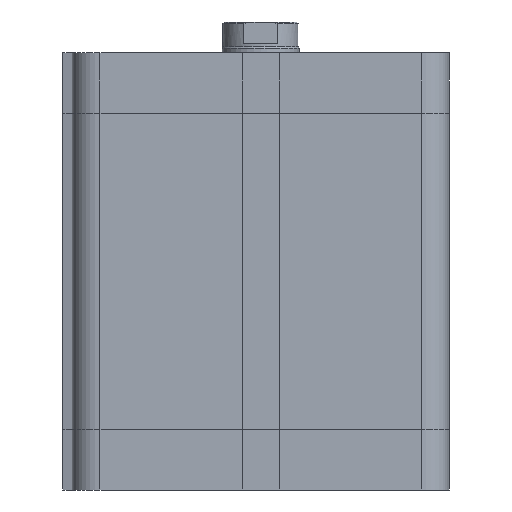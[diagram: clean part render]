
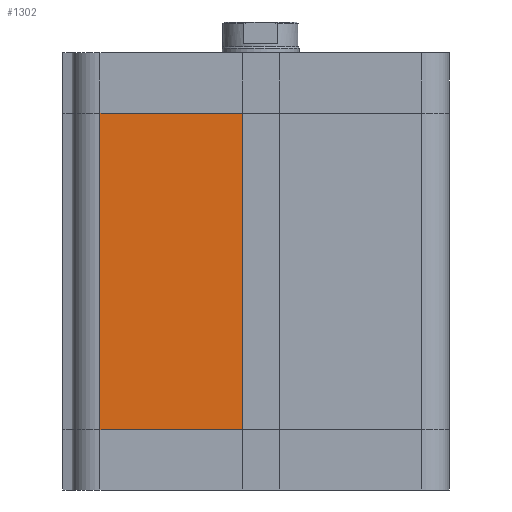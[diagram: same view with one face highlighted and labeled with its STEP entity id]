
A CAD part, left-side view. The second image highlights one B-rep face of the part: STEP entity #1302.
In plain terms, the highlighted planar face has unit normal (-1, 0, 0).
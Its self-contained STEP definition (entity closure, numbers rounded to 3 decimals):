
#1213=CARTESIAN_POINT('',(-61.0,52.,19.5));
#1214=VERTEX_POINT('',#1213);
#1222=CARTESIAN_POINT('',(-61.0,52.,122.));
#1223=VERTEX_POINT('',#1222);
#1224=CARTESIAN_POINT('',(-61.0,52.,19.5));
#1225=DIRECTION('',(0.0,0.0,1.0));
#1226=VECTOR('',#1225,102.5);
#1227=LINE('',#1224,#1226);
#1228=EDGE_CURVE('',#1214,#1223,#1227,.T.);
#1272=CARTESIAN_POINT('',(-61.,6.,0.0));
#1273=DIRECTION('',(-1.0,0.0,0.0));
#1274=DIRECTION('',(0.0,0.0,1.0));
#1275=AXIS2_PLACEMENT_3D('',#1272,#1273,#1274);
#1276=PLANE('',#1275);
#1277=CARTESIAN_POINT('',(-61.,6.,19.5));
#1278=VERTEX_POINT('',#1277);
#1279=CARTESIAN_POINT('',(-61.0,52.,19.5));
#1280=DIRECTION('',(0.0,-1.0,0.0));
#1281=VECTOR('',#1280,46.);
#1282=LINE('',#1279,#1281);
#1283=EDGE_CURVE('',#1214,#1278,#1282,.T.);
#1284=ORIENTED_EDGE('',*,*,#1283,.T.);
#1285=CARTESIAN_POINT('',(-61.,6.,122.));
#1286=VERTEX_POINT('',#1285);
#1287=CARTESIAN_POINT('',(-61.,6.,19.5));
#1288=DIRECTION('',(0.0,0.0,1.0));
#1289=VECTOR('',#1288,102.5);
#1290=LINE('',#1287,#1289);
#1291=EDGE_CURVE('',#1278,#1286,#1290,.T.);
#1292=ORIENTED_EDGE('',*,*,#1291,.T.);
#1293=CARTESIAN_POINT('',(-61.0,52.,122.));
#1294=DIRECTION('',(0.0,-1.0,0.0));
#1295=VECTOR('',#1294,46.);
#1296=LINE('',#1293,#1295);
#1297=EDGE_CURVE('',#1223,#1286,#1296,.T.);
#1298=ORIENTED_EDGE('',*,*,#1297,.F.);
#1299=ORIENTED_EDGE('',*,*,#1228,.F.);
#1300=EDGE_LOOP('',(#1284,#1292,#1298,#1299));
#1301=FACE_OUTER_BOUND('',#1300,.T.);
#1302=ADVANCED_FACE('',(#1301),#1276,.T.);
